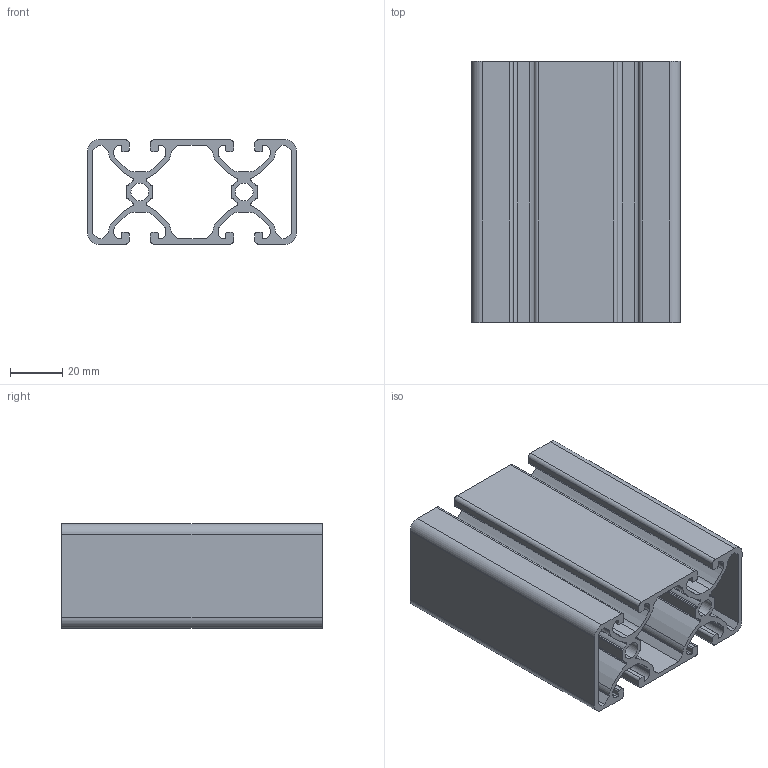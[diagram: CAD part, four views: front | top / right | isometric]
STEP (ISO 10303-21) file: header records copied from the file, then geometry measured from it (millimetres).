
FILE_DESCRIPTION (( 'STEP AP203' ), '1' );
FILE_NAME ('0108P8040-2N180E.STEP', '2024-02-29T09:53:22', ( 'Windows-Benutzer' ), ( '' ), 'SwSTEP 2.0', 'SolidWorks 2023', '' );
FILE_SCHEMA (( 'CONFIG_CONTROL_DESIGN' ));
Length unit declared in the file: millimetre
Products named in the file (1): 0108P8040-2N180E
Bounding box: 80 x 100 x 40 mm (x, y, z)
Volume: 87326.9 mm3; surface area: 77590.4 mm2
Topology: 1 solids, 1 shells, 222 faces, 660 edges, 440 vertices
Faces by surface type: cylinder 128, plane 94
Entity records: 7637 total; most frequent: DIRECTION 1362, CARTESIAN_POINT 1323, ORIENTED_EDGE 1320, EDGE_CURVE 660, AXIS2_PLACEMENT_3D 479, VERTEX_POINT 440, LINE 404, VECTOR 404
